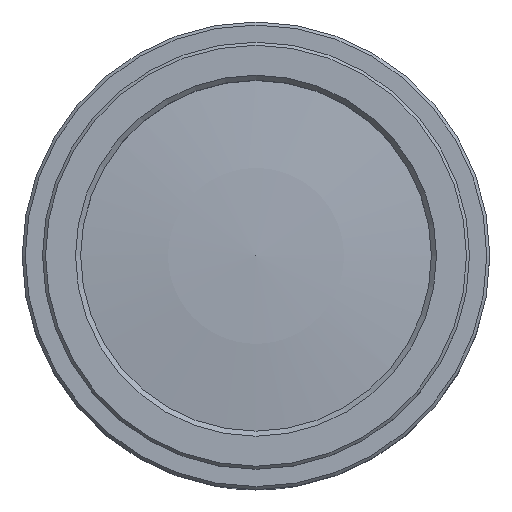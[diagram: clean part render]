
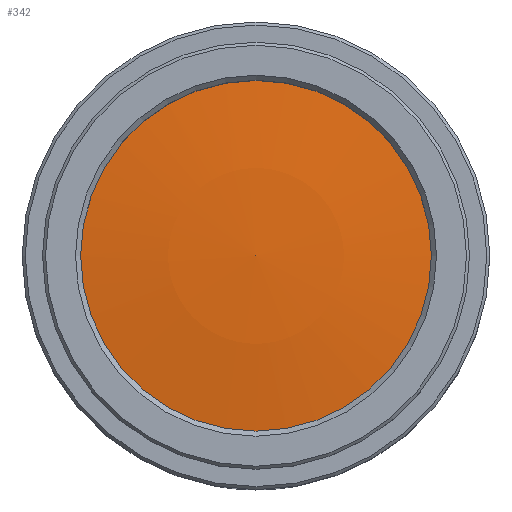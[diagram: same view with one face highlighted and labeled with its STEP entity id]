
A CAD part, top view. The second image highlights one B-rep face of the part: STEP entity #342.
In plain terms, the highlighted spherical face has radius 143.62 mm.
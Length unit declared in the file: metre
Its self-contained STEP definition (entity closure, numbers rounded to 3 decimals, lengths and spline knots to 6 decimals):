
#342=ADVANCED_FACE('0:67641',(#790),#791,.T.);
#790=FACE_OUTER_BOUND('',#1373,.T.);
#791=SPHERICAL_SURFACE('',#1374,0.14362);
#1373=EDGE_LOOP('',(#2457));
#1374=AXIS2_PLACEMENT_3D('',#2458,#2459,#2460);
#2457=ORIENTED_EDGE('',*,*,#3766,.F.);
#2458=CARTESIAN_POINT('',(-0.009,0.00001,-0.140566));
#2459=DIRECTION('',(0.,0.,-1.0));
#2460=DIRECTION('',(0.,-1.0,0.));
#3766=EDGE_CURVE('0:67661',#4548,#4548,#4549,.T.);
#4548=VERTEX_POINT('',#6249);
#4549=CIRCLE('',#6250,0.01725);
#6249=CARTESIAN_POINT('',(-0.009,0.01726,0.002014));
#6250=AXIS2_PLACEMENT_3D('',#7131,#7132,#7133);
#7131=CARTESIAN_POINT('',(-0.009,0.00001,0.002014));
#7132=DIRECTION('',(0.0,0.,-1.0));
#7133=DIRECTION('',(0.0,1.0,0.));
